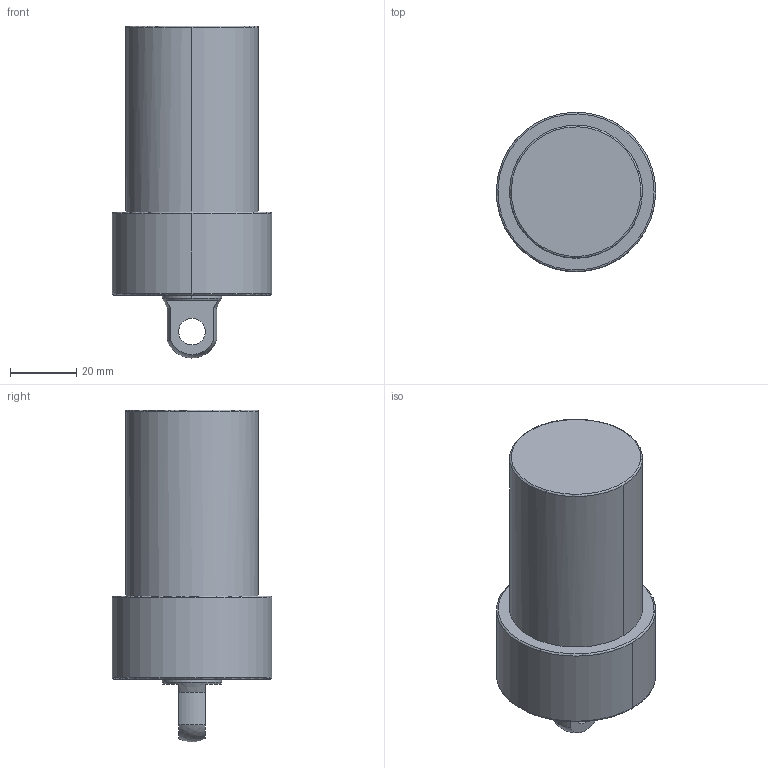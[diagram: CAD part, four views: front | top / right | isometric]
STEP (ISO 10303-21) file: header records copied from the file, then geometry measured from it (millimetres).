
FILE_DESCRIPTION((' '),'2;1');
FILE_NAME( 'TLLU-040GP-045.STEP.stp', '2025-10-24T16:37:16', (' '), ('--- Datakit www.datakit.com---'), ' Datakit CrossCadWare V2024.1 Dec 21 2023', 'Mastercam 2025', ' ');
FILE_SCHEMA(('AUTOMOTIVE_DESIGN { 1 0 10303 214 1 1 1 1 }'));
Length unit declared in the file: millimetre
Products named in the file (1): TLLU-040GP-045
Bounding box: 47.99 x 48 x 99.96 mm (x, y, z)
Volume: 116440.9 mm3; surface area: 15944.2 mm2
Topology: 1 solids, 1 shells, 56 faces, 167 edges, 113 vertices
Faces by surface type: cylinder 22, cone 18, plane 9, torus 6, sphere 1
Entity records: 1952 total; most frequent: DIRECTION 380, CARTESIAN_POINT 341, ORIENTED_EDGE 318, AXIS2_PLACEMENT_3D 168, EDGE_CURVE 159, VERTEX_POINT 113, CIRCLE 111, EDGE_LOOP 66
